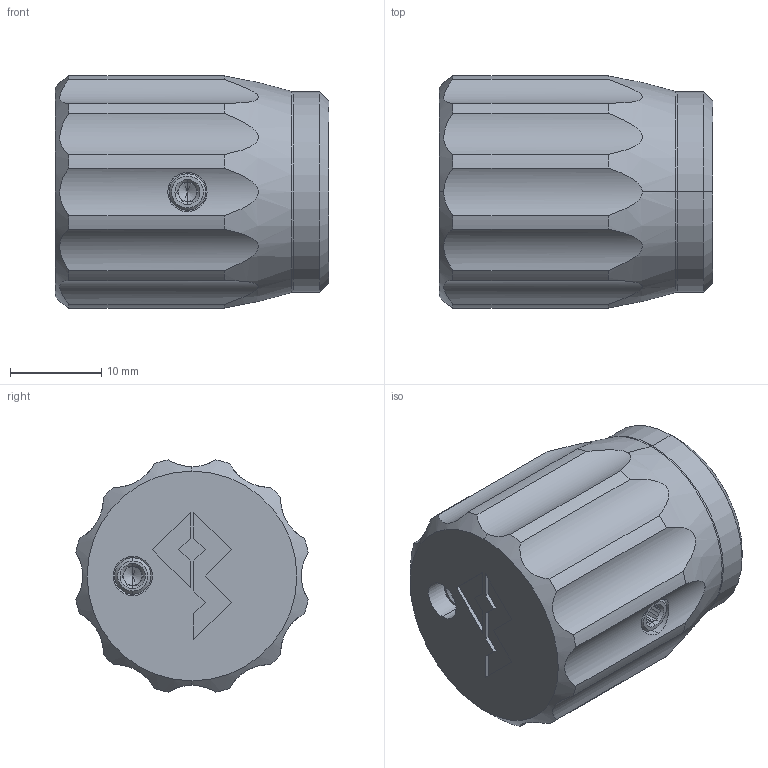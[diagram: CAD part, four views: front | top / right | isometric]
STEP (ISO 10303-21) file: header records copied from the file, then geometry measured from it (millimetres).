
FILE_DESCRIPTION (( 'STEP AP214' ), '1' );
FILE_NAME ('D.STEP', '2017-03-24T13:54:40', ( '' ), ( '' ), 'SwSTEP 2.0', 'SolidWorks 2016', '' );
FILE_SCHEMA (( 'AUTOMOTIVE_DESIGN' ));
Length unit declared in the file: millimetre
Products named in the file (1): D
Bounding box: 30 x 25.47 x 25.47 mm (x, y, z)
Volume: 9912.7 mm3; surface area: 5324.6 mm2
Topology: 4 solids, 4 shells, 169 faces, 433 edges, 275 vertices
Faces by surface type: plane 77, cylinder 60, cone 26, torus 6
Entity records: 7679 total; most frequent: CARTESIAN_POINT 1672, ORIENTED_EDGE 854, DIRECTION 845, EDGE_CURVE 427, AXIS2_PLACEMENT_3D 312, VERTEX_POINT 275, VECTOR 221, LINE 221
